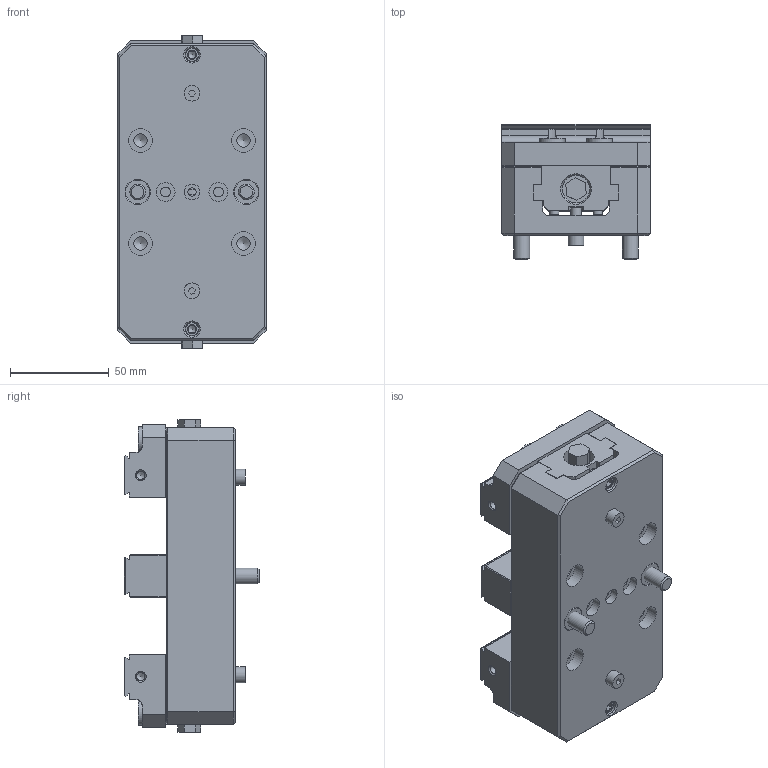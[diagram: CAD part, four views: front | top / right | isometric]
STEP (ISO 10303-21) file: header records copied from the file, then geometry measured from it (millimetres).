
FILE_DESCRIPTION (( 'STEP AP214' ), '1' );
FILE_NAME ('DV75150X-J1_WEBSITE.STEP', '2025-08-11T13:30:43', ( '' ), ( '' ), 'SwSTEP 2.0', 'SolidWorks 2025', '' );
FILE_SCHEMA (( 'AUTOMOTIVE_DESIGN' ));
Length unit declared in the file: inch
Products named in the file (20): V75100X-2_WEBSITE_V75100X-2R OP2; V75100X-5CDV_WEBSITE_MILL OP 4; DV75150X-HK^DV75150X_DV75150X-J1_WEBSITE; HW.76268_WEBSITE_91290A456; HW.0187.FP_WEBSITE; V75150-4_WEBSITE; HW.0625X0625.DB_WEBSITE; HW.76256_WEBSITE_91290A446; V75100X-2_WEBSITE_V75100X-2L OP2; M5x10.DP_WEBSITE_93600A511; HW.76232_WEBSITE_91290A418; LC024B05M_WEBSITE_9657K267; DV75150X-J1_WEBSITE; LP8_WEBSITE_LP8; V75150X-1_WEBSITE_FINAL; DV75150X-3R_WEBSITE; HW.450-8_WEBSITE; HW.M8X12.EPSS_WEBSITE_92775A312; V75100X-5_WEBSITE_HARD OP2; DV75150X^DV75150X-J1_WEBSITE
Assembly tree (40 placements, depth 4):
  DV75150X-J1_WEBSITE
    DV75150X^DV75150X-J1_WEBSITE
      HW.M8X12.EPSS_WEBSITE_92775A312  x2
      HW.0187.FP_WEBSITE  x4
      LC024B05M_WEBSITE_9657K267  x4
      V75150X-1_WEBSITE_FINAL
      V75100X-2_WEBSITE_V75100X-2R OP2
      V75150-4_WEBSITE
      V75100X-2_WEBSITE_V75100X-2L OP2
      DV75150X-HK^DV75150X_DV75150X-J1_WEBSITE
        M5x10.DP_WEBSITE_93600A511  x2
        LP8_WEBSITE_LP8  x2
        HW.76232_WEBSITE_91290A418  x8
        HW.76256_WEBSITE_91290A446  x2
        HW.76268_WEBSITE_91290A456  x2
        HW.450-8_WEBSITE  x2
        HW.0625X0625.DB_WEBSITE  x2
    DV75150X-3R_WEBSITE
      V75100X-5_WEBSITE_HARD OP2  x2
      V75100X-5CDV_WEBSITE_MILL OP 4
Bounding box: 75 x 68.38 x 158 mm (x, y, z)
Volume: 436583.4 mm3; surface area: 135201.8 mm2
Topology: 37 solids, 37 shells, 771 faces, 1691 edges, 1049 vertices
Faces by surface type: plane 413, cylinder 158, cone 154, torus 34, bspline 12
Full cylindrical faces by diameter (mm): 3.454 x1, 4.2 x7, 4.763 x4, 4.915 x4, 5 x4, 5.013 x2, 5.017 x2, 5.052 x2, 5.5 x2, 6.8 x16, 8 x16, 8.014 x3, 8.271 x4, 8.5 x8, 9 x4, 9.5 x2, 9.652 x2, 10.2 x2, 12 x4, 12.009 x4, 12.5 x2, 12.6 x4, 13 x12, 13.5 x8, 13.7 x2, 13.9 x2, 14 x2, 15.494 x2, 15.913 x2, 15.926 x2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
Entity records: 17670 total; most frequent: CARTESIAN_POINT 4135, DIRECTION 2070, ORIENTED_EDGE 1634, EDGE_CURVE 817, AXIS2_PLACEMENT_3D 784, EDGE_LOOP 710, VERTEX_POINT 607, FACE_OUTER_BOUND 569
